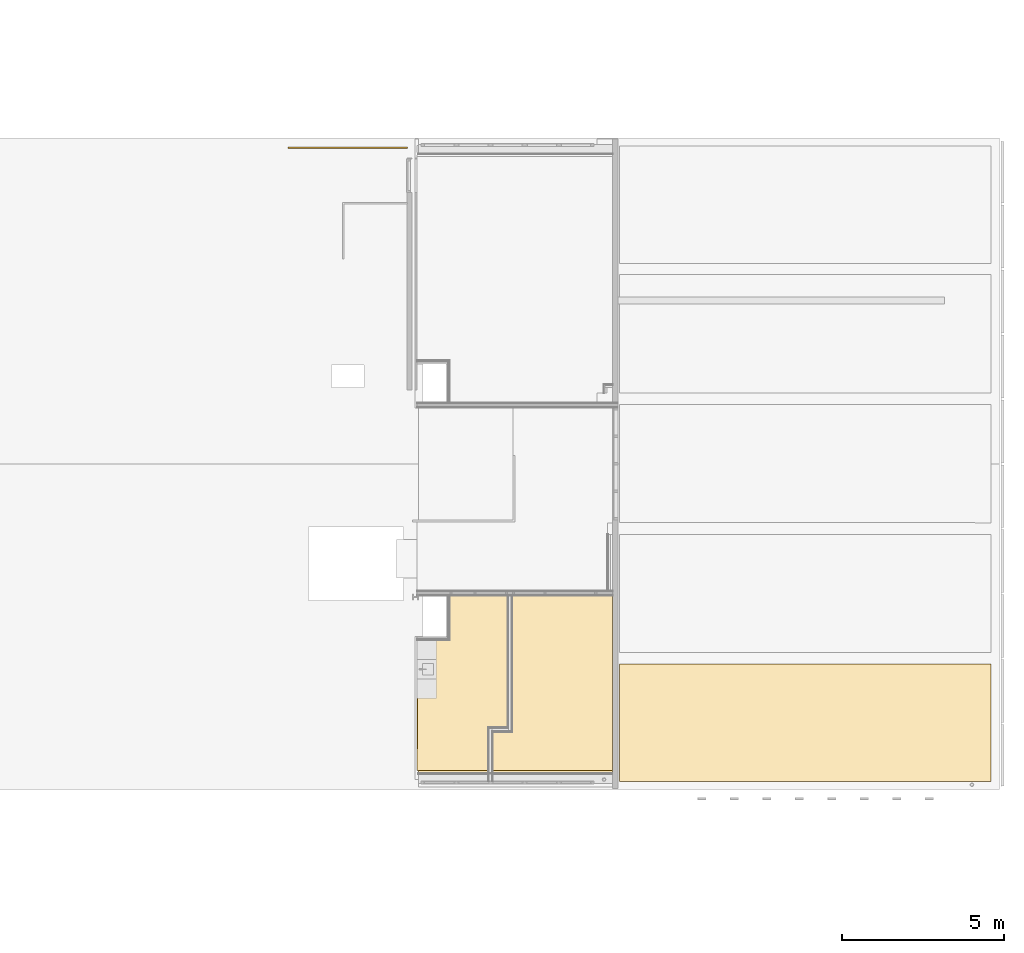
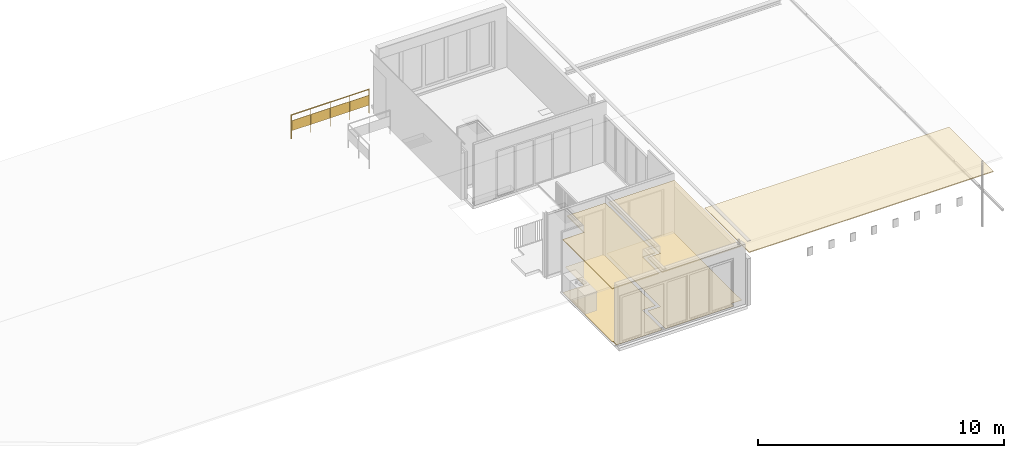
# One storey, part 20 of 25: 5 coverings, 1 railing.
"""IFC2X3 building model written with IfcOpenShell, lengths in millimetres."""

from ifc_helpers import new_model, entity, si_unit, converted_unit, derived_unit, money_unit, direction, frame, origin_with_axes, place, context, subcontext, project, spatial, faceted_brep, material, material_list, type_object, element, save


model = new_model("IFC2X3")

# Units and contexts
model_context = context("Model", 3, precision=0.01, world=origin_with_axes(), true_north=direction((0.0, 1.0)))
body_context = subcontext(model_context, "Body", "Model", "MODEL_VIEW")
ifc_project = project(units=[si_unit("LENGTHUNIT", "METRE", prefix="MILLI"), si_unit("AREAUNIT", "SQUARE_METRE"), si_unit("VOLUMEUNIT", "CUBIC_METRE"), converted_unit("PLANEANGLEUNIT", "DEGREE", entity("IfcPlaneAngleMeasure", 0.0174532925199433), si_unit("PLANEANGLEUNIT", "RADIAN"), dimensions=[0, 0, 0, 0, 0, 0, 0]), money_unit("EUR"), converted_unit("TIMEUNIT", "Year", entity("IfcTimeMeasure", 31557600.0), si_unit("TIMEUNIT", "SECOND"), dimensions=[0, 0, 1, 0, 0, 0, 0]), si_unit("MASSUNIT", "GRAM", prefix="KILO"), si_unit("THERMODYNAMICTEMPERATUREUNIT", "DEGREE_CELSIUS"), si_unit("LUMINOUSINTENSITYUNIT", "LUMEN"), si_unit("ENERGYUNIT", "JOULE", prefix="MEGA"), derived_unit("THERMALCONDUCTANCEUNIT", [(si_unit("POWERUNIT", "WATT"), 1), (si_unit("LENGTHUNIT", "METRE"), -1), (si_unit("THERMODYNAMICTEMPERATUREUNIT", "KELVIN"), -1)]), derived_unit("SPECIFICHEATCAPACITYUNIT", [(si_unit("ENERGYUNIT", "JOULE"), 1), (si_unit("MASSUNIT", "GRAM", prefix="KILO"), -1), (si_unit("THERMODYNAMICTEMPERATUREUNIT", "KELVIN"), -1)]), derived_unit("MASSDENSITYUNIT", [(si_unit("MASSUNIT", "GRAM", prefix="KILO"), 1), (si_unit("VOLUMEUNIT", "CUBIC_METRE"), -1)])], contexts=[model_context])

# Site, building, storey
site_placement = place(None, origin_with_axes())
site = spatial("IfcSite", under=ifc_project, at=site_placement, Name="<site naam>", CompositionType="ELEMENT")
building_placement = place(site_placement, origin_with_axes())
building = spatial("IfcBuilding", under=site, at=building_placement, Name="<Naam gebouw>", CompositionType="ELEMENT")
storey_placement = place(building_placement, frame((0.0, 0.0, 9563.0), z_axis=(0.0, 0.0, 1.0), x_axis=(1.0, 0.0, 0.0)))
storey = spatial("IfcBuildingStorey", under=building, at=storey_placement, Name="03 3e tussenverdieping", CompositionType="ELEMENT", Elevation=9563.0)

# Coverings
ifc_material_1 = material(Name="systeemplafond 600*600 kleur wit")
covering_type_1 = type_object("IfcCoveringType", Name="PA-01a 40", PredefinedType="CEILING")
covering_1_placement = place(storey_placement, frame((54473.64501679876, 550.0000000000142, 2600.0), z_axis=(0.0, 0.0, 1.0), x_axis=(1.0, 0.0, 0.0)))
element("IfcCovering", 1, at=covering_1_placement, inside=storey, type_object=covering_type_1, material=ifc_material_1, Name="45_Vloer_PA-01a", PredefinedType="CEILING", context=body_context, shape_type="Brep", body=[
    faceted_brep([(0.0, 0.0, 40.00000000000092), (0.0, 0.0, 0.0), (3684.137827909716, 0.0, 0.0), (3684.137827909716, 0.0, 40.00000000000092), (0.0, 1179.999999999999, 40.00000000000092), (0.0, 1179.999999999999, 0.0), (601.3549832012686, 1179.999999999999, 0.0), (601.3549832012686, 5385.000000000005, 0.0), (3684.137827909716, 5385.000000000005, 0.0), (3684.137827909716, 5385.000000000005, 40.00000000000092), (601.3549832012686, 5385.000000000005, 40.00000000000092), (601.3549832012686, 1179.999999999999, 40.00000000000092)], [[[0, 1, 2, 3]], [[4, 5, 1, 0]], [[2, 1, 5, 6, 7, 8]], [[3, 2, 8, 9]], [[4, 0, 3, 9, 10, 11]], [[11, 6, 5, 4]], [[10, 7, 6, 11]], [[9, 8, 7, 10]]]),
])
covering_2_placement = place(storey_placement, frame((52135.1962244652, 550.0000000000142, 2600.0), z_axis=(0.0, 0.0, 1.0), x_axis=(1.0, 0.0, 0.0)))
element("IfcCovering", 2, at=covering_2_placement, inside=storey, type_object=covering_type_1, material=ifc_material_1, Name="45_Vloer_PA-01a", PredefinedType="CEILING", context=body_context, shape_type="Brep", body=[
    faceted_brep([(2188.448765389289, 0.0, 40.00000000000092), (0.0, 0.0, 40.00000000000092), (0.0, 0.0, 0.0), (2188.448765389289, 0.0, 0.0), (11.61606320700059, 2213.396020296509, 40.00000000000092), (7.205865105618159, 737.7774109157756, 40.00000000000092), (2188.448794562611, 1330.000013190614, 40.00000000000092), (2789.803775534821, 1329.999999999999, 40.00000000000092), (2789.803745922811, 5385.000004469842, 40.00000000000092), (1002.30377553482, 5385.000004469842, 40.00000000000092), (1002.30377553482, 4024.999982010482, 40.00000000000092), (2.10310846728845, 4024.99998201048, 40.00000000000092), (6.024526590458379, 3689.010626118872, 40.00000000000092), (7.205865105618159, 737.7774109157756, 0.0), (2188.448794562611, 1330.000013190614, 0.0), (11.61606320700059, 2213.396020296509, 0.0), (6.024526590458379, 3689.010626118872, 0.0), (2.10310846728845, 4024.99998201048, 0.0), (1002.30377553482, 4024.999982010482, 0.0), (1002.30377553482, 5385.000004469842, 0.0), (2789.803745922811, 5385.000004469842, 0.0), (2789.803775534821, 1329.999999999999, 0.0)], [[[0, 1, 2, 3]], [[4, 5, 1, 0, 6, 7, 8, 9, 10, 11, 12]], [[1, 5, 13, 2]], [[14, 3, 2, 13, 15, 16, 17, 18, 19, 20, 21]], [[6, 0, 3, 14]], [[5, 4, 15, 13]], [[7, 6, 14, 21]], [[8, 7, 21, 20]], [[9, 8, 20, 19]], [[10, 9, 19, 18]], [[11, 10, 18, 17]], [[12, 11, 17, 16]], [[4, 12, 16, 15]]]),
])
ifc_material_2 = material(Name="geïntegreerd balvast lamellenplafond")
covering_type_2 = type_object("IfcCoveringType", Name="PA-04 40", PredefinedType="CEILING")
covering_3_placement = place(storey_placement, frame((69812.00006617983, 3835.910713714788, 2427.029654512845), z_axis=(0.0, 0.0, 1.0), x_axis=(1.0, 0.0, 0.0)))
element("IfcCovering", 3, at=covering_3_placement, inside=storey, type_object=covering_type_2, material=ifc_material_2, Name="45_Vloer_PA-04", PredefinedType="CEILING", context=body_context, shape_type="Brep", body=[
    faceted_brep([(0.0, 0.0, 40.00000000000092), (0.0, 0.0, 0.0), (-11444.56597981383, 0.0, 0.0), (-11444.56597981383, 0.0, 40.00000000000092), (0.0, -3615.000008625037, 40.00000000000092), (0.0, -3615.000008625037, 0.0), (-11444.56597981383, -3615.000008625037, 0.0), (-11444.56597981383, -3615.000008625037, 40.00000000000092)], [[[0, 1, 2, 3]], [[4, 5, 1, 0]], [[2, 1, 5, 6]], [[3, 2, 6, 7]], [[4, 0, 3, 7]], [[7, 6, 5, 4]]]),
])
ifc_material_3 = material(Name="tapijttegel")
covering_type_3 = type_object("IfcCoveringType", Name="VA-05 3", PredefinedType="CEILING")
covering_4_placement = place(storey_placement, frame((55075.00000000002, 6085.000000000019, 0.0), z_axis=(0.0, 0.0, 1.0), x_axis=(1.0, 0.0, 0.0)))
element("IfcCovering", 4, at=covering_4_placement, inside=storey, type_object=covering_type_3, material=ifc_material_3, Name="43_Vloer_VA-05", PredefinedType="CEILING", context=body_context, shape_type="Brep", body=[
    faceted_brep([(0.0, 0.0, 3.000000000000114), (0.0, 0.0, 0.0), (0.0, -4355.000000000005, 0.0), (0.0, -4355.000000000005, 3.000000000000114), (3082.782867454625, 0.0, 3.000000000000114), (3082.782867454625, 0.0, 0.0), (3082.782867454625, -5607.000000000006, 0.0), (2600.000007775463, -5607.000000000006, 0.0), (2600.000007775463, -5815.999984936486, 0.0), (-601.3549832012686, -5815.999984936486, 0.0), (-601.3549832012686, -4355.000000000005, 0.0), (-601.3549832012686, -4355.000000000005, 3.000000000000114), (-601.3549832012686, -5815.999984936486, 3.000000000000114), (2600.000007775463, -5815.999984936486, 3.000000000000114), (2600.000007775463, -5607.000000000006, 3.000000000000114), (3082.782867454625, -5607.000000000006, 3.000000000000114)], [[[0, 1, 2, 3]], [[4, 5, 1, 0]], [[2, 1, 5, 6, 7, 8, 9, 10]], [[3, 2, 10, 11]], [[4, 0, 3, 11, 12, 13, 14, 15]], [[15, 6, 5, 4]], [[14, 7, 6, 15]], [[13, 8, 7, 14]], [[12, 9, 8, 13]], [[11, 10, 9, 12]]]),
])
covering_5_placement = place(storey_placement, frame((52134.99991105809, 4572.500000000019, 0.0), z_axis=(0.0, 0.0, 1.0), x_axis=(1.0, 0.0, 0.0)))
element("IfcCovering", 5, at=covering_5_placement, inside=storey, type_object=covering_type_3, material=ifc_material_3, Name="43_Vloer_VA-05", PredefinedType="CEILING", context=body_context, shape_type="Brep", body=[
    faceted_brep([(0.0, 0.0, 3.000000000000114), (0.0, 0.0, 0.0), (0.0, -4022.500001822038, 0.0), (0.0, -4022.500001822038, 3.000000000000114), (1002.500088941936, 0.0, 3.000000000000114), (1002.500088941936, 0.0, 0.0), (1002.500088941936, 1512.5, 0.0), (2790.00002323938, 1512.5, 0.0), (2790.000088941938, -2692.500000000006, 0.0), (2188.64510703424, -2692.499975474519, 0.0), (2188.645041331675, -4303.500025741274, 0.0), (40.00013774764, -4303.500025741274, 0.0), (40.00013774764, -4022.500001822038, 0.0), (40.00013774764, -4022.500001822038, 3.000000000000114), (40.00013774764, -4303.500025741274, 3.000000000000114), (2188.645041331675, -4303.500025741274, 3.000000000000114), (2188.64510703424, -2692.499975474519, 3.000000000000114), (2790.000088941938, -2692.500000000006, 3.000000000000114), (2790.00002323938, 1512.5, 3.000000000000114), (1002.500088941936, 1512.5, 3.000000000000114)], [[[0, 1, 2, 3]], [[4, 5, 1, 0]], [[2, 1, 5, 6, 7, 8, 9, 10, 11, 12]], [[3, 2, 12, 13]], [[4, 0, 3, 13, 14, 15, 16, 17, 18, 19]], [[19, 6, 5, 4]], [[18, 7, 6, 19]], [[17, 8, 7, 18]], [[16, 9, 8, 17]], [[15, 10, 9, 16]], [[14, 11, 10, 15]], [[13, 12, 11, 14]]]),
])

# Railing
ifc_material_4 = material(Name="staal balustrade")
ifc_material_5 = material(Name="hout AFW")
ifc_material_list = material_list([ifc_material_4, ifc_material_4, ifc_material_4, ifc_material_4, ifc_material_4, ifc_material_5, ifc_material_4, ifc_material_5, ifc_material_4, ifc_material_5, ifc_material_4, ifc_material_5])
railing_type = type_object("IfcRailingType", Name="Railing Type", PredefinedType="NOTDEFINED")
railing_placement = place(storey_placement, frame((48175.00000000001, 15120.00000000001, 3.000000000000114), z_axis=(0.0, 0.0, 1.0), x_axis=(1.0, 0.0, 0.0)))
element("IfcRailing", 6, at=railing_placement, inside=storey, type_object=railing_type, material=ifc_material_list, Name="34_Reling_", PredefinedType="NOTDEFINED", context=body_context, shape_type="Brep", body=[
    faceted_brep([(9.99999999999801, 4590.08709163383, -199.9999999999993), (9.99999999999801, 4640.087091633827, -199.9999999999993), (9.99999999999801, 4640.087091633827, 980.0000000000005), (9.99999999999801, 4590.08709163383, 980.0000000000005), (-9.99999999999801, 4590.08709163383, -199.9999999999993), (-9.99999999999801, 4640.087091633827, -199.9999999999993), (-9.99999999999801, 4640.087091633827, 980.0000000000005), (-9.99999999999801, 4590.08709163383, 980.0000000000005)], [[[0, 1, 2, 3]], [[0, 4, 5, 1]], [[1, 5, 6, 2]], [[3, 2, 6, 7]], [[4, 0, 3, 7]], [[5, 4, 7, 6]]]),
    faceted_brep([(0.0, 4640.087091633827, 1000.0), (0.0, 4640.087091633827, 970.0000000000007), (-9.99999999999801, 4640.087091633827, 970.0000000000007), (-9.99999999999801, 4640.087091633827, 1000.0), (0.0, 4590.08709163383, 1000.0), (0.0, 4590.08709163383, 970.0000000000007), (-9.99999999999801, 4590.08709163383, 970.0000000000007), (-9.99999999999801, 4590.08709163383, 1000.0)], [[[0, 1, 2, 3]], [[0, 4, 5, 1]], [[1, 5, 6, 2]], [[3, 2, 6, 7]], [[4, 0, 3, 7]], [[5, 4, 7, 6]]]),
    faceted_brep([(3660.000000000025, 4590.08709163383, -199.9999999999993), (3660.000000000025, 4640.087091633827, -199.9999999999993), (3660.000000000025, 4640.087091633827, 980.0000000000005), (3660.000000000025, 4590.08709163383, 980.0000000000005), (3640.000000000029, 4590.08709163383, -199.9999999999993), (3640.000000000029, 4640.087091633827, -199.9999999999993), (3640.000000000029, 4640.087091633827, 980.0000000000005), (3640.000000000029, 4590.08709163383, 980.0000000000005)], [[[0, 1, 2, 3]], [[0, 4, 5, 1]], [[1, 5, 6, 2]], [[3, 2, 6, 7]], [[4, 0, 3, 7]], [[5, 4, 7, 6]]]),
    faceted_brep([(3650.000000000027, 4590.08709163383, 1000.0), (3650.000000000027, 4590.08709163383, 970.0000000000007), (3660.000000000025, 4590.08709163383, 970.0000000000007), (3660.000000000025, 4590.08709163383, 1000.0), (3650.000000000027, 4640.087091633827, 1000.0), (3650.000000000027, 4640.087091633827, 970.0000000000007), (3660.000000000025, 4640.087091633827, 970.0000000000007), (3660.000000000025, 4640.087091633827, 1000.0)], [[[0, 1, 2, 3]], [[0, 4, 5, 1]], [[1, 5, 6, 2]], [[3, 2, 6, 7]], [[4, 0, 3, 7]], [[5, 4, 7, 6]]]),
    faceted_brep([(0.0, 4590.08709163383, 1000.0), (0.0, 4590.08709163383, 970.0000000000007), (3650.000000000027, 4590.08709163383, 970.0000000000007), (3650.000000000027, 4590.08709163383, 1000.0), (0.0, 4640.087091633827, 1000.0), (0.0, 4640.087091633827, 970.0000000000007), (3650.000000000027, 4640.087091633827, 970.0000000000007), (3650.000000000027, 4640.087091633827, 1000.0)], [[[0, 1, 2, 3]], [[0, 4, 5, 1]], [[1, 5, 6, 2]], [[3, 2, 6, 7]], [[4, 0, 3, 7]], [[5, 4, 7, 6]]]),
    faceted_brep([(902.5000000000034, 4625.08709163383, 200.0000000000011), (9.99999999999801, 4625.08709163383, 200.0000000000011), (9.99999999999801, 4625.08709163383, 699.9999999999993), (902.5000000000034, 4625.08709163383, 699.9999999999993), (9.99999999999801, 4605.087091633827, 200.0000000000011), (902.5000000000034, 4605.087091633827, 200.0000000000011), (9.99999999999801, 4605.087091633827, 699.9999999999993), (902.5000000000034, 4605.087091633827, 699.9999999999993)], [[[0, 1, 2, 3]], [[4, 1, 0, 5]], [[6, 2, 1, 4]], [[3, 2, 6, 7]], [[0, 3, 7, 5]], [[6, 4, 5, 7]]]),
    faceted_brep([(917.5000000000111, 4590.08709163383, -199.9999999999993), (917.5000000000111, 4640.087091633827, -199.9999999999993), (917.5000000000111, 4640.087091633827, 1000.0), (917.5000000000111, 4590.08709163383, 1000.0), (907.5000000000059, 4590.08709163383, -199.9999999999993), (907.5000000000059, 4640.087091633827, -199.9999999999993), (907.5000000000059, 4640.087091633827, 1000.0), (907.5000000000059, 4590.08709163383, 1000.0)], [[[0, 1, 2, 3]], [[0, 4, 5, 1]], [[1, 5, 6, 2]], [[3, 2, 6, 7]], [[4, 0, 3, 7]], [[5, 4, 7, 6]]]),
    faceted_brep([(1815.000000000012, 4625.08709163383, 200.0000000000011), (922.5000000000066, 4625.08709163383, 200.0000000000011), (922.5000000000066, 4625.08709163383, 699.9999999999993), (1815.000000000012, 4625.08709163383, 699.9999999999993), (922.5000000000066, 4605.087091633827, 200.0000000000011), (1815.000000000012, 4605.087091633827, 200.0000000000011), (922.5000000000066, 4605.087091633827, 699.9999999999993), (1815.000000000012, 4605.087091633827, 699.9999999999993)], [[[0, 1, 2, 3]], [[4, 1, 0, 5]], [[6, 2, 1, 4]], [[3, 2, 6, 7]], [[0, 3, 7, 5]], [[6, 4, 5, 7]]]),
    faceted_brep([(1830.00000000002, 4590.08709163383, -199.9999999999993), (1830.00000000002, 4640.087091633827, -199.9999999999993), (1830.00000000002, 4640.087091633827, 1000.0), (1830.00000000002, 4590.08709163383, 1000.0), (1820.000000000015, 4590.08709163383, -199.9999999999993), (1820.000000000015, 4640.087091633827, -199.9999999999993), (1820.000000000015, 4640.087091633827, 1000.0), (1820.000000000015, 4590.08709163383, 1000.0)], [[[0, 1, 2, 3]], [[0, 4, 5, 1]], [[1, 5, 6, 2]], [[3, 2, 6, 7]], [[4, 0, 3, 7]], [[5, 4, 7, 6]]]),
    faceted_brep([(2727.50000000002, 4625.08709163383, 200.0000000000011), (1835.000000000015, 4625.08709163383, 200.0000000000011), (1835.000000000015, 4625.08709163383, 699.9999999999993), (2727.50000000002, 4625.08709163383, 699.9999999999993), (1835.000000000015, 4605.087091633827, 200.0000000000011), (2727.50000000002, 4605.087091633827, 200.0000000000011), (1835.000000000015, 4605.087091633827, 699.9999999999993), (2727.50000000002, 4605.087091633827, 699.9999999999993)], [[[0, 1, 2, 3]], [[4, 1, 0, 5]], [[6, 2, 1, 4]], [[3, 2, 6, 7]], [[0, 3, 7, 5]], [[6, 4, 5, 7]]]),
    faceted_brep([(2742.500000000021, 4590.08709163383, -199.9999999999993), (2742.500000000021, 4640.087091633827, -199.9999999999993), (2742.500000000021, 4640.087091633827, 1000.0), (2742.500000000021, 4590.08709163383, 1000.0), (2732.500000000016, 4590.08709163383, -199.9999999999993), (2732.500000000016, 4640.087091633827, -199.9999999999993), (2732.500000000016, 4640.087091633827, 1000.0), (2732.500000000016, 4590.08709163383, 1000.0)], [[[0, 1, 2, 3]], [[0, 4, 5, 1]], [[1, 5, 6, 2]], [[3, 2, 6, 7]], [[4, 0, 3, 7]], [[5, 4, 7, 6]]]),
    faceted_brep([(3640.000000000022, 4625.08709163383, 200.0000000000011), (2747.500000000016, 4625.08709163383, 200.0000000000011), (2747.500000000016, 4625.08709163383, 699.9999999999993), (3640.000000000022, 4625.08709163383, 699.9999999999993), (2747.500000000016, 4605.087091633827, 200.0000000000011), (3640.000000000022, 4605.087091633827, 200.0000000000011), (2747.500000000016, 4605.087091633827, 699.9999999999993), (3640.000000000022, 4605.087091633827, 699.9999999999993)], [[[0, 1, 2, 3]], [[4, 1, 0, 5]], [[6, 2, 1, 4]], [[3, 2, 6, 7]], [[0, 3, 7, 5]], [[6, 4, 5, 7]]]),
])

save(model, "model.ifc")
